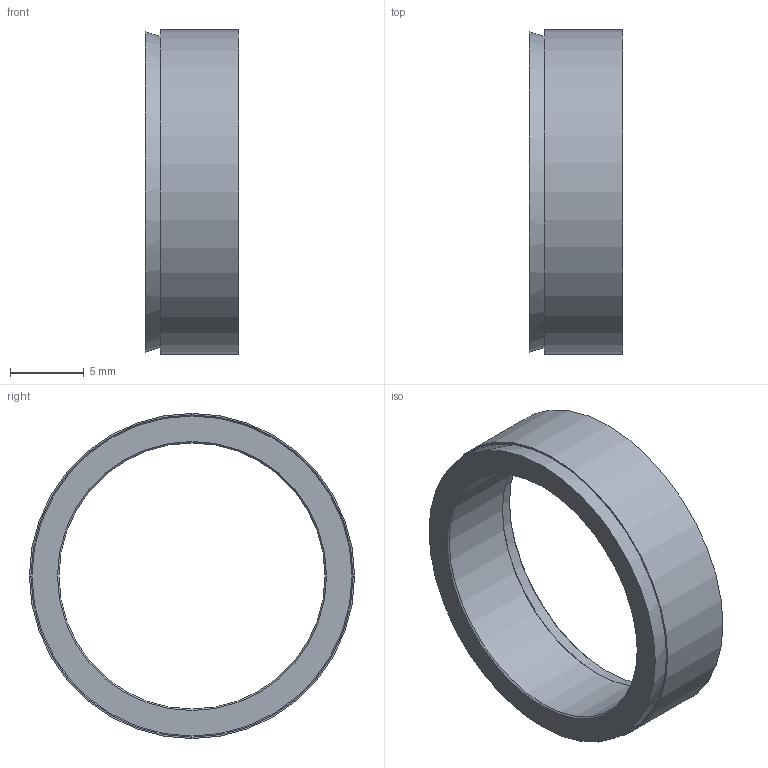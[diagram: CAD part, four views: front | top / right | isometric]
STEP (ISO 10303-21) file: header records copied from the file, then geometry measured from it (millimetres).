
FILE_DESCRIPTION(/* description */ (''),/* implementation_level */ '2;1');
FILE_NAME(/* name */ 'C:\Users\stagistaCAD\Desktop\stagista 2\Assieme 06500018.stp',/* time_stamp */ '2017-12-11T14:47:40+01:00',/* author */ ('stagistacad'),/* organization */ (''),/* preprocessor_version */ 'ST-DEVELOPER v15.6',/* originating_system */ 'Autodesk Inventor 2015',/* authorisation */ '');
FILE_SCHEMA (('AUTOMOTIVE_DESIGN { 1 0 10303 214 3 1 1 }'));
Length unit declared in the file: millimetre
Products named in the file (3): 06500018 parte superiore; 06500018 parte inferiore; Assieme 06500018
Bounding box: 6.3 x 22 x 22 mm (x, y, z)
Volume: 664.8 mm3; surface area: 1600.5 mm2
Topology: 2 solids, 2 shells, 12 faces, 20 edges, 12 vertices
Faces by surface type: cone 6, plane 4, cylinder 2
Full cylindrical faces by diameter (mm): 18 x1, 22 x1
Entity records: 317 total; most frequent: DIRECTION 58, CARTESIAN_POINT 41, AXIS2_PLACEMENT_3D 29, EDGE_LOOP 24, ORIENTED_EDGE 24, FACE_BOUND 12, FACE_OUTER_BOUND 12, CIRCLE 12
